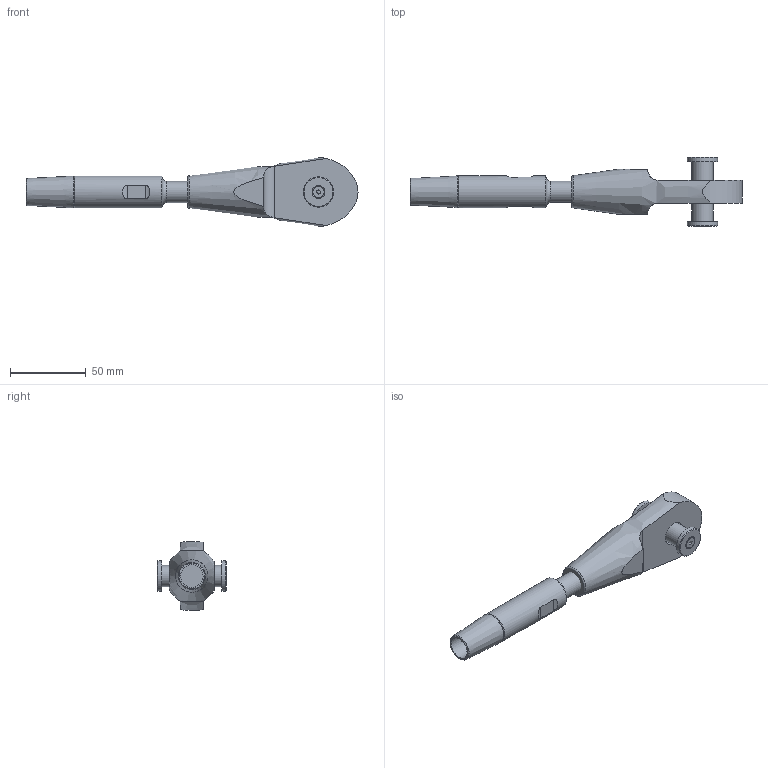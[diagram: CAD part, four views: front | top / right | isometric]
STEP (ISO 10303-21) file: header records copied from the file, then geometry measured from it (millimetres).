
FILE_DESCRIPTION(/* description */ (''),/* implementation_level */ '2;1');
FILE_NAME(/* name */ 'C:\Vault_WS\Designs\SB\01-PX\Verzinkt\ZSS\520 - Zusambau-OES-ADA\520-014-OES-ADA.stp',/* time_stamp */ '2020-10-07T15:32:38+02:00',/* author */ ('schwarz'),/* organization */ (''),/* preprocessor_version */ 'ST-DEVELOPER v18.1',/* originating_system */ 'Autodesk Inventor 2020',/* authorisation */ '');
FILE_SCHEMA (('AUTOMOTIVE_DESIGN { 1 0 10303 214 3 1 1 }'));
Length unit declared in the file: millimetre
Products named in the file (1): 520-014-OES-ADA-Kunde
Bounding box: 218.5 x 45.78 x 45.17 mm (x, y, z)
Volume: 103777.6 mm3; surface area: 25892.5 mm2
Topology: 6 solids, 6 shells, 63 faces, 152 edges, 106 vertices
Faces by surface type: plane 28, cylinder 20, cone 13, torus 2
Full cylindrical faces by diameter (mm): 3.242 x1, 4 x1, 4.5 x1, 7.53 x1, 14 x2, 14.8 x1, 16 x1, 20 x2, 21 x1
Entity records: 2149 total; most frequent: CARTESIAN_POINT 524, DIRECTION 316, ORIENTED_EDGE 300, EDGE_CURVE 150, AXIS2_PLACEMENT_3D 132, VERTEX_POINT 106, EDGE_LOOP 74, STYLED_ITEM 69
